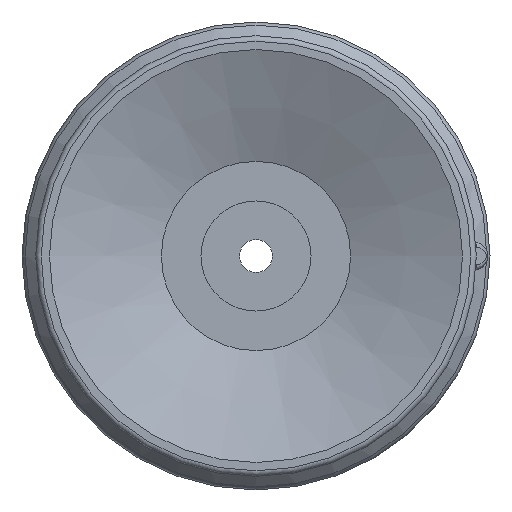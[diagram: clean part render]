
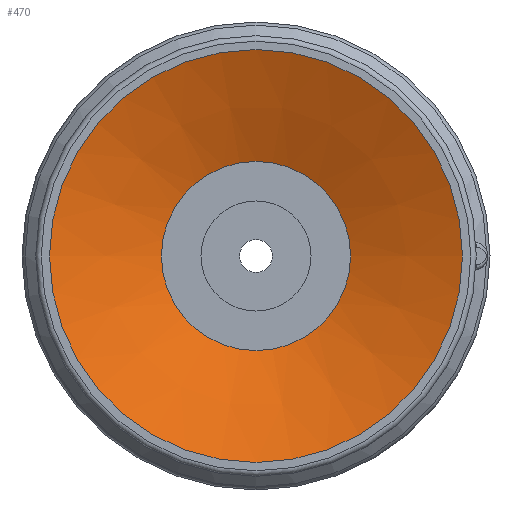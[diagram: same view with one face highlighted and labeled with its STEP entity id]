
A CAD part, front view. The second image highlights one B-rep face of the part: STEP entity #470.
In plain terms, the highlighted conical face has half-angle 67.5 degrees and reference radius 3.437 mm.
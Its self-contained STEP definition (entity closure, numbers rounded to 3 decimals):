
#470=ADVANCED_FACE('',(#647,#648),#649,.F.);
#647=FACE_BOUND('',#1846,.T.);
#648=FACE_OUTER_BOUND('',#1847,.T.);
#649=CONICAL_SURFACE('',#1848,3.437,1.178);
#1846=EDGE_LOOP('',(#2218));
#1847=EDGE_LOOP('',(#2219));
#1848=AXIS2_PLACEMENT_3D('',#2220,#2221,#2222);
#2218=ORIENTED_EDGE('',*,*,#2343,.F.);
#2219=ORIENTED_EDGE('',*,*,#2347,.T.);
#2220=CARTESIAN_POINT('',(0.0,0.0,1.683));
#2221=DIRECTION('',(0.0,0.,-1.0));
#2222=DIRECTION('',(0.0,1.0,0.));
#2343=EDGE_CURVE('',#2511,#2511,#2512,.T.);
#2347=EDGE_CURVE('',#2519,#2519,#2520,.T.);
#2511=VERTEX_POINT('',#2936);
#2512=CIRCLE('',#2937,3.437);
#2519=VERTEX_POINT('',#2944);
#2520=CIRCLE('',#2945,7.5);
#2936=CARTESIAN_POINT('',(-3.437,0.0,1.683));
#2937=AXIS2_PLACEMENT_3D('',#3102,#3103,#3104);
#2944=CARTESIAN_POINT('',(-7.5,0.0,0.));
#2945=AXIS2_PLACEMENT_3D('',#3114,#3115,#3116);
#3102=CARTESIAN_POINT('',(0.0,0.0,1.683));
#3103=DIRECTION('',(0.0,0.,-1.0));
#3104=DIRECTION('',(0.0,1.0,0.));
#3114=CARTESIAN_POINT('',(0.0,0.0,0.));
#3115=DIRECTION('',(0.0,0.,-1.0));
#3116=DIRECTION('',(0.0,1.0,0.));
